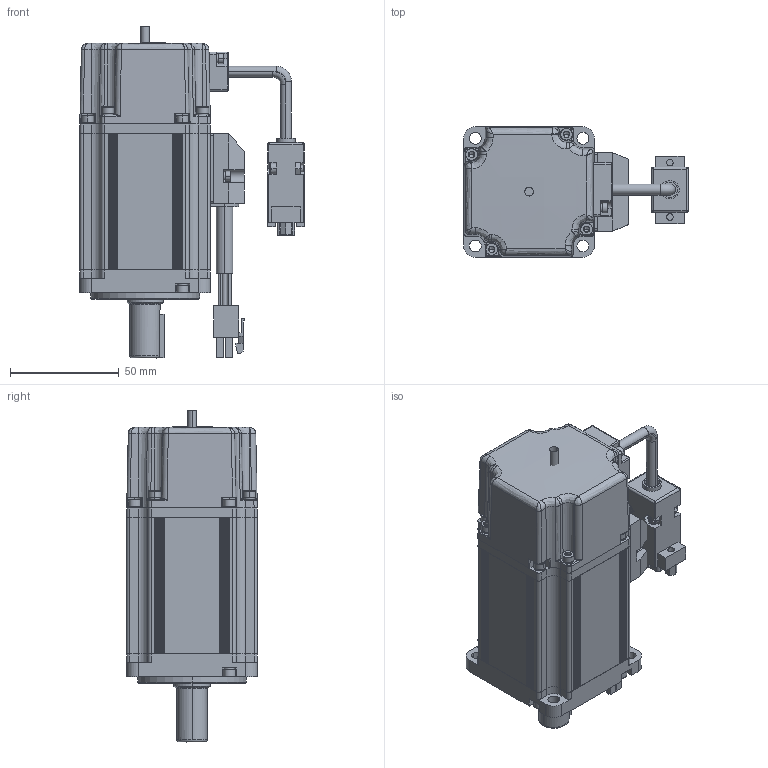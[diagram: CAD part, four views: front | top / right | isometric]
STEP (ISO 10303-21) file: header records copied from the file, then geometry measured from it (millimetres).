
FILE_DESCRIPTION((''),'2;1');
FILE_NAME('SV-ML06-0R2G-2-1A0-1000_ASM','2018-05-02T',('Administrator'),(''),'PRO/ENGINEER BY PARAMETRIC TECHNOLOGY CORPORATION, 2009440','PRO/ENGINEER BY PARAMETRIC TECHNOLOGY CORPORATION, 2009440','');
FILE_SCHEMA(('CONFIG_CONTROL_DESIGN'));
Products named in the file (31): MH60-400W-8599; MH60-400-Z_ASM; ML60-QDG; 60-MFQ; 60-ZYG; GB-T93-2R5; GB-T70-M2R5X8; OQ-52X1; GB-T276-6003; GB-T93-3; GB-T70-M3X16; GB-T9877-17X28X4; ML60-Q_ASM; MH60-400W-JK; GB-T97-3; GB-T70-M3X5; DYX-CT; DYX-YXH; MH60-400W-DZ_ASM; 5X5X20; 60-H-JDS; OQ-50X1; 60-H-JDS_ASM; 60-FHZ-L; XHXCT; XHX; GB-T70-M3X12; 60-FHZ-ZJ_ASM; DYX-ZJ; XHX-ZJ; SV-ML06-0R2G-2-1A0-1000_ASM
Assembly tree (65 placements, depth 3):
  SV-ML06-0R2G-2-1A0-1000_ASM
    MH60-400-Z_ASM
      MH60-400W-8599
    ML60-Q_ASM
      ML60-QDG
      60-MFQ
      60-ZYG
      GB-T93-2R5  x3
      GB-T70-M2R5X8  x3
      OQ-52X1
      GB-T276-6003
      GB-T93-3  x4
      GB-T70-M3X16  x4
      GB-T9877-17X28X4
    MH60-400W-DZ_ASM
      MH60-400W-JK
      GB-T97-3
      GB-T93-3
      GB-T70-M3X5
      DYX-CT
      DYX-YXH
      GB-T93-2R5  x2
      GB-T70-M2R5X8  x2
    5X5X20
    60-H-JDS_ASM
      60-H-JDS
      OQ-52X1
      OQ-50X1
      GB-T93-3  x4
      GB-T70-M3X16  x4
    60-FHZ-ZJ_ASM
      60-FHZ-L
      XHXCT
      XHX
      GB-T93-2R5  x2
      GB-T70-M2R5X8  x2
      GB-T93-3  x4
      GB-T70-M3X12  x4
    DYX-ZJ
    XHX-ZJ
Bounding box: 103.09 x 60 x 152.5 mm (x, y, z)
Volume: 171867.4 mm3; surface area: 121033.7 mm2
Topology: 60 solids, 84 shells, 2652 faces, 6211 edges, 3815 vertices
Faces by surface type: plane 1368, cylinder 735, cone 339, torus 115, bspline 86, sphere 5, extrusion 4
Entity records: 65936 total; most frequent: CARTESIAN_POINT 18174, DIRECTION 9932, ORIENTED_EDGE 9624, EDGE_CURVE 4827, AXIS2_PLACEMENT_3D 3457, VERTEX_POINT 3079, VECTOR 3018, LINE 3014
